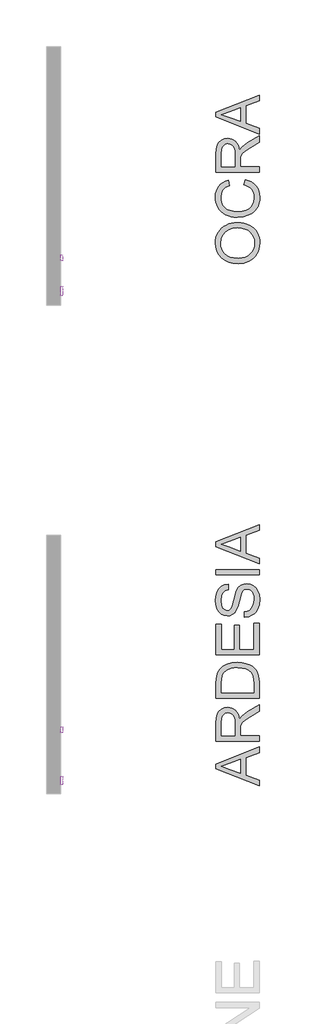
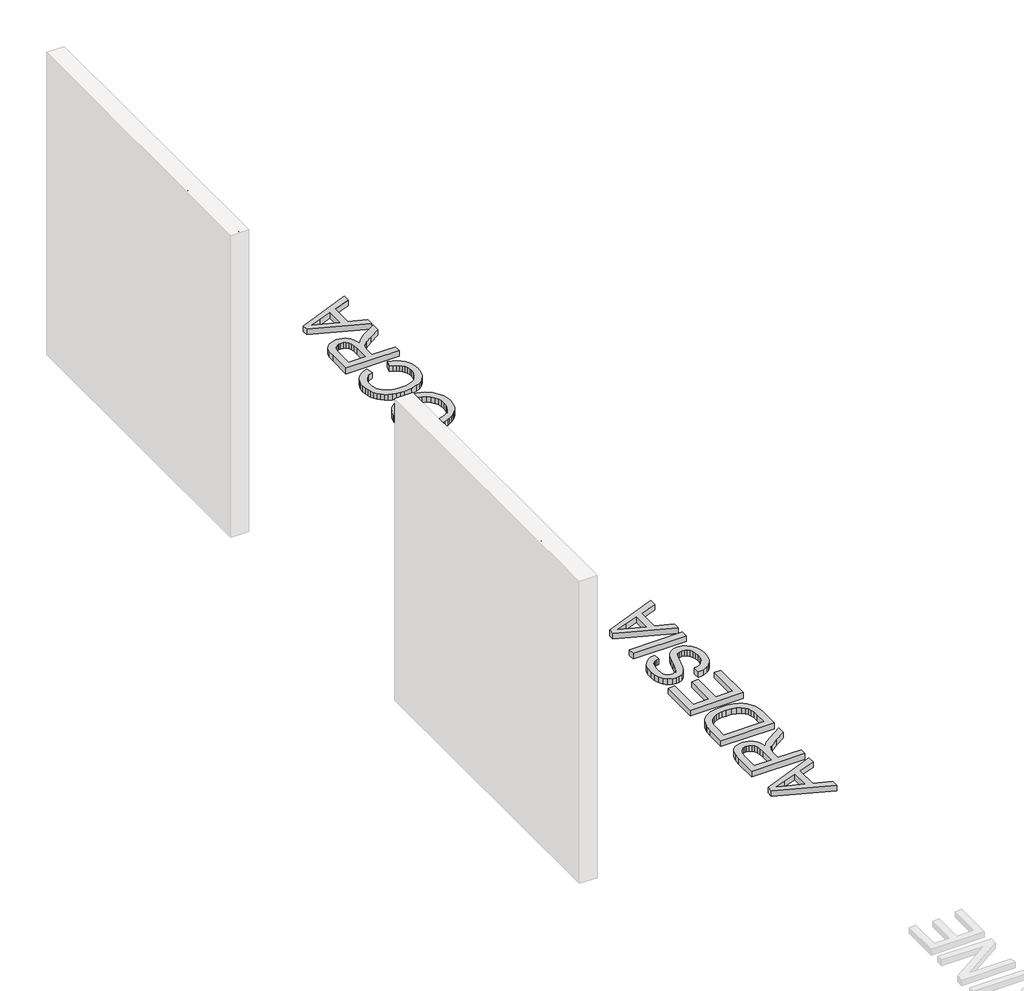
# One storey, part 4 of 6: 6 proxies.
"""IFC4 building model written with IfcOpenShell, lengths in millimetres."""

from ifc_helpers import new_model, si_unit, frame, origin, origin_with_axes, place, context, project, spatial, polyline, outline, extrude, element, save

model = new_model("IFC4")

# Units and contexts
model_context = context("Model", 3, world=origin())
ifc_project = project(units=[si_unit("LENGTHUNIT", "METRE", prefix="MILLI")], contexts=[model_context])

# Site, building, storey
site = spatial("IfcSite", under=ifc_project)
building = spatial("IfcBuilding", under=site)
storey = spatial("IfcBuildingStorey", under=building, Name="PORTOBELLO - SHOWROOM", Elevation=0.0)

# Proxies
placement = place(None, origin())
element("IfcBuildingElementProxy", 1, Name="10mm Arial", ObjectType="10mm Arial", at=placement, inside=storey, context=model_context, shape_type="SweptSolid", body=[
    extrude(outline(polyline([(3716.2378531, 2478.2261649), (3756.3369906, 2578.6824751), (3767.0300939, 2578.6824751), (3807.1292314, 2478.2261649), (3793.8609541, 2478.2261649), (3782.3585104, 2509.6187619), (3740.9840487, 2509.6187619), (3729.5061304, 2478.2261649), (3716.2378531, 2478.2261649)]), holes=[polyline([(3745.5948363, 2522.1758006), (3777.7722482, 2522.1758006), (3768.7223511, 2546.8729452), (3761.6835422, 2566.1254363), (3755.4295483, 2549.0311863), (3745.5948363, 2522.1758006)])]), frame((-20793.2092306, 0.0, 0.0), z_axis=(1.0, 0.0, 0.0), x_axis=(0.0, 1.0, 0.0)), (0.0, 0.0, 1.0), 20.0),
    extrude(outline(polyline([(3818.9750316, 2478.2261649), (3818.9750316, 2551.9987677), (3829.9624406, 2551.9987677), (3829.9624406, 2541.0849352), (3837.7615388, 2551.1403764), (3845.6096881, 2553.5683975), (3858.2157778, 2549.6933739), (3854.021923, 2538.4361848), (3845.1927552, 2541.0113588), (3838.0926326, 2538.5342867), (3833.5676841, 2531.6671561), (3831.5320704, 2517.0009272), (3831.5320704, 2478.2261649), (3818.9750316, 2478.2261649)])), frame((-20793.2092306, 0.0, 0.0), z_axis=(1.0, 0.0, 0.0), x_axis=(0.0, 1.0, 0.0)), (0.0, 0.0, 1.0), 20.0),
    extrude(outline(polyline([(3911.5831925, 2478.2261649), (3911.5831925, 2490.0719652), (3903.2751908, 2480.0103926), (3891.7911412, 2476.6565351), (3876.2419955, 2481.5125774), (3865.2545866, 2495.0628976), (3861.3550375, 2515.0388899), (3864.9480183, 2535.027145), (3875.714698, 2548.7859316), (3891.7420903, 2553.5683975), (3903.3181104, 2550.147095), (3911.5831925, 2541.2566134), (3911.5831925, 2578.6824751), (3924.1402313, 2578.6824751), (3924.1402313, 2478.2261649), (3911.5831925, 2478.2261649)]), holes=[polyline([(3873.9120762, 2515.0879409), (3875.3284219, 2503.7295843), (3879.577459, 2495.6515088), (3885.7517451, 2490.8230576), (3892.9438381, 2489.2135739), (3900.1328654, 2490.7494812), (3906.1508018, 2495.3572032), (3910.2250948, 2503.122579), (3911.5831925, 2514.1314477), (3910.2005694, 2526.1673203), (3906.0526999, 2534.5121102), (3899.8814794, 2539.3865466), (3892.4288033, 2541.0113588), (3885.1631339, 2539.450926), (3879.209577, 2534.7696276), (3875.2364514, 2526.7283403), (3873.9120762, 2515.0879409)])]), frame((-20793.2092306, 0.0, 0.0), z_axis=(1.0, 0.0, 0.0), x_axis=(0.0, 1.0, 0.0)), (0.0, 0.0, 1.0), 20.0),
    extrude(outline(polyline([(3994.6264216, 2500.2009828), (4006.9382057, 2498.6313529), (4002.502162, 2489.3545953), (3995.4234992, 2482.4200197), (3985.8616331, 2478.0974062), (3973.9759789, 2476.6565351), (3959.242305, 2479.1428042), (3947.9054082, 2486.6016117), (3940.676527, 2498.5485795), (3938.2668999, 2514.4993297), (3940.7010525, 2530.9865744), (3948.0035101, 2543.3167526), (3959.1871227, 2551.0054863), (3973.2647404, 2553.5683975), (3986.9039654, 2551.0116177), (3997.8024695, 2543.3412781), (4004.9485772, 2531.0356253), (4007.3306132, 2514.5729061), (4007.2570368, 2511.1883917), (3950.8239387, 2511.1883917), (3952.9975082, 2501.7890067), (3958.0466885, 2494.8789566), (3965.3338177, 2490.6299195), (3974.2212336, 2489.2135739), (3986.5330177, 2491.8377988), (3994.6264216, 2500.2009828)]), holes=[polyline([(3950.8239387, 2523.7454305), (3994.7735744, 2523.7454305), (3989.7458538, 2535.1252469), (3982.4250021, 2539.5398308), (3973.2156895, 2541.0113588), (3957.7523829, 2536.314732), (3952.8871436, 2530.8240932), (3950.8239387, 2523.7454305)])]), frame((-20793.2092306, 0.0, 0.0), z_axis=(1.0, 0.0, 0.0), x_axis=(0.0, 1.0, 0.0)), (0.0, 0.0, 1.0), 20.0),
    extrude(outline(polyline([(4015.1787624, 2500.2009828), (4027.7358012, 2501.7706126), (4033.5483367, 2492.4509354), (4046.8656649, 2489.2135739), (4059.6679583, 2492.1811553), (4063.8372876, 2499.1463877), (4059.6434329, 2504.787245), (4046.7185121, 2508.3679631), (4027.8093776, 2514.5115924), (4019.5565581, 2521.6852913), (4016.7483922, 2531.8143089), (4019.0047351, 2541.1707743), (4025.1606272, 2548.3199477), (4033.1436665, 2552.0355559), (4043.9471344, 2553.5683975), (4059.2264999, 2551.1035882), (4068.9385846, 2544.4326613), (4073.2550667, 2533.1632095), (4060.6980279, 2531.5935797), (4055.9768757, 2538.5220239), (4044.9281531, 2541.0113588), (4032.9106746, 2538.6323885), (4029.305431, 2533.0896331), (4030.8014845, 2529.4353387), (4035.4858485, 2526.663961), (4046.3015792, 2523.9906851), (4064.7324671, 2518.0800477), (4073.2918549, 2511.3845954), (4076.3943264, 2500.4707629), (4072.7522946, 2488.4532844), (4062.2431323, 2479.7344811), (4046.6939866, 2476.6565351), (4034.0327146, 2478.1403258), (4024.7927452, 2482.5916979), (4018.6245904, 2489.9616006), (4015.1787624, 2500.2009828)])), frame((-20793.2092306, 0.0, 0.0), z_axis=(1.0, 0.0, 0.0), x_axis=(0.0, 1.0, 0.0)), (0.0, 0.0, 1.0), 20.0),
    extrude(outline(polyline([(-20773.2092306, 4103.0780338), (-20773.2092306, 4090.520995), (-20793.2092306, 4090.520995), (-20793.2092306, 4103.0780338), (-20773.2092306, 4103.0780338)])), frame((0.0, 0.0, 2566.1254363), z_axis=(0.0, 0.0, 1.0), x_axis=(1.0, 0.0, 0.0)), (0.0, 0.0, 1.0), 12.5570388),
    extrude(outline(polyline([(-20773.2092306, 4103.0780338), (-20773.2092306, 4090.520995), (-20793.2092306, 4090.520995), (-20793.2092306, 4103.0780338), (-20773.2092306, 4103.0780338)])), frame((0.0, 0.0, 2478.2261649), z_axis=(0.0, 0.0, 1.0), x_axis=(1.0, 0.0, 0.0)), (0.0, 0.0, 1.0), 73.7726028),
    extrude(outline(polyline([(4169.0024873, 2487.643944), (4156.8255933, 2479.1336072), (4143.373375, 2476.6565351), (4132.8795411, 2478.1464572), (4125.1386907, 2482.6162234), (4120.3654219, 2489.4036462), (4118.7743322, 2497.846538), (4121.1778279, 2507.7793519), (4127.4931355, 2514.989839), (4136.2855152, 2519.1101173), (4147.1502968, 2520.9985782), (4168.9289109, 2525.3150603), (4169.0024873, 2528.1109635), (4165.5443966, 2537.3815898), (4151.6629826, 2541.0113588), (4138.958791, 2538.5956003), (4132.9010008, 2530.0239499), (4120.3439621, 2531.5935797), (4125.7763529, 2543.8563129), (4136.7147109, 2551.0422745), (4153.2816634, 2553.5683975), (4168.4997152, 2551.3365801), (4177.0958912, 2545.7325111), (4180.9463894, 2537.2099115), (4181.5595261, 2526.2225026), (4181.5595261, 2510.5997805), (4182.1971882, 2488.7843782), (4184.6987858, 2478.2261649), (4172.141747, 2478.2261649), (4169.0024873, 2487.643944)]), holes=[polyline([(4169.0024873, 2512.7580215), (4148.7444521, 2508.9075233), (4137.9409842, 2506.8719096), (4133.0481536, 2503.5609717), (4131.331371, 2498.7294548), (4135.0715046, 2491.9359006), (4146.0466508, 2489.2135739), (4158.7508424, 2492.2179435), (4166.9423481, 2499.4897443), (4168.9289109, 2509.2018289), (4169.0024873, 2512.7580215)])]), frame((-20793.2092306, 0.0, 0.0), z_axis=(1.0, 0.0, 0.0), x_axis=(0.0, 1.0, 0.0)), (0.0, 0.0, 1.0), 20.0),
])
element("IfcBuildingElementProxy", 2, Name="10mm Arial", ObjectType="10mm Arial", at=placement, inside=storey, context=model_context, shape_type="SweptSolid", body=[
    extrude(outline(polyline([(8823.227611, 2527.1299448), (8826.5753372, 2549.343886), (8836.6185156, 2566.1499618), (8851.9530635, 2576.7265691), (8871.1748977, 2580.2521049), (8884.3512045, 2578.596636), (8896.1663479, 2573.630229), (8905.9765345, 2565.702372), (8913.1379706, 2555.1625529), (8917.5157664, 2542.519675), (8918.9750316, 2528.2826417), (8917.4391243, 2513.8555362), (8912.8314023, 2501.0348486), (8905.4063174, 2490.4766354), (8895.4183212, 2482.8369526), (8883.7043453, 2478.2016395), (8871.1013213, 2476.6565351), (8857.7226794, 2478.3641207), (8845.840091, 2483.4868775), (8836.0544299, 2491.5618873), (8828.9665701, 2502.1262319), (8823.227611, 2527.1299448)]), holes=[polyline([(8835.7846498, 2527.0073175), (8838.2954444, 2511.2926249), (8845.8278283, 2499.318066), (8857.1493967, 2491.7396969), (8871.0277449, 2489.2135739), (8885.1084283, 2491.7642224), (8896.4483908, 2499.4161679), (8903.9255923, 2511.7586088), (8906.4179929, 2528.3807436), (8902.1505617, 2549.1047627), (8889.6793621, 2562.8267611), (8871.2484741, 2567.6950662), (8857.7410735, 2565.3498184), (8846.2570239, 2558.3140753), (8838.4027433, 2545.7968904), (8835.7846498, 2527.0073175)])]), frame((-20793.2092306, 0.0, 0.0), z_axis=(1.0, 0.0, 0.0), x_axis=(0.0, 1.0, 0.0)), (0.0, 0.0, 1.0), 20.0),
    extrude(outline(polyline([(8981.7602255, 2504.9098723), (8994.3172642, 2503.3402425), (8990.8162539, 2492.1719582), (8984.2372976, 2483.7321321), (8975.1996632, 2478.4254343), (8964.3226189, 2476.6565351), (8950.9654368, 2479.1244101), (8940.5206538, 2486.5280353), (8933.7792163, 2498.5424481), (8931.5320704, 2514.8426862), (8935.3703059, 2535.7015953), (8947.0689533, 2549.1047627), (8964.1509406, 2553.5683975), (8974.7612705, 2552.0355559), (8983.2440162, 2547.437031), (8989.3293975, 2540.0180774), (8992.7476344, 2530.0239499), (8980.1905956, 2528.45432), (8974.3657974, 2537.8598364), (8964.2490425, 2541.0113588), (8956.1341788, 2539.460123), (8949.6931782, 2534.8064158), (8945.4901264, 2526.798851), (8944.0891092, 2515.1860427), (8945.4594696, 2503.4168846), (8949.5705509, 2495.3817286), (8955.8950555, 2490.7556126), (8963.905686, 2489.2135739), (8975.7392235, 2493.0640721), (8981.7602255, 2504.9098723)])), frame((-20793.2092306, 0.0, 0.0), z_axis=(1.0, 0.0, 0.0), x_axis=(0.0, 1.0, 0.0)), (0.0, 0.0, 1.0), 20.0),
    extrude(outline(polyline([(9005.3046732, 2478.2261649), (9005.3046732, 2551.9987677), (9016.2920821, 2551.9987677), (9016.2920821, 2541.0849352), (9024.0911804, 2551.1403764), (9031.9393296, 2553.5683975), (9044.5454193, 2549.6933739), (9040.3515646, 2538.4361848), (9031.5223967, 2541.0113588), (9024.4222742, 2538.5342867), (9019.8973256, 2531.6671561), (9017.8617119, 2517.0009272), (9017.8617119, 2478.2261649), (9005.3046732, 2478.2261649)])), frame((-20793.2092306, 0.0, 0.0), z_axis=(1.0, 0.0, 0.0), x_axis=(0.0, 1.0, 0.0)), (0.0, 0.0, 1.0), 20.0),
    extrude(outline(polyline([(9099.4824639, 2487.643944), (9087.3055699, 2479.1336072), (9073.8533516, 2476.6565351), (9063.3595177, 2478.1464572), (9055.6186674, 2482.6162234), (9050.8453985, 2489.4036462), (9049.2543089, 2497.846538), (9051.6578046, 2507.7793519), (9057.9731121, 2514.989839), (9066.7654918, 2519.1101173), (9077.6302734, 2520.9985782), (9099.4088875, 2525.3150603), (9099.4824639, 2528.1109635), (9096.0243732, 2537.3815898), (9082.1429592, 2541.0113588), (9069.4387677, 2538.5956003), (9063.3809775, 2530.0239499), (9050.8239387, 2531.5935797), (9056.2563295, 2543.8563129), (9067.1946875, 2551.0422745), (9083.76164, 2553.5683975), (9098.9796919, 2551.3365801), (9107.5758678, 2545.7325111), (9111.426366, 2537.2099115), (9112.0395027, 2526.2225026), (9112.0395027, 2510.5997805), (9112.6771648, 2488.7843782), (9115.1787624, 2478.2261649), (9102.6217236, 2478.2261649), (9099.4824639, 2487.643944)]), holes=[polyline([(9099.4824639, 2512.7580215), (9079.2244287, 2508.9075233), (9068.4209608, 2506.8719096), (9063.5281303, 2503.5609717), (9061.8113476, 2498.7294548), (9065.5514812, 2491.9359006), (9076.5266274, 2489.2135739), (9089.230819, 2492.2179435), (9097.4223248, 2499.4897443), (9099.4088875, 2509.2018289), (9099.4824639, 2512.7580215)])]), frame((-20793.2092306, 0.0, 0.0), z_axis=(1.0, 0.0, 0.0), x_axis=(0.0, 1.0, 0.0)), (0.0, 0.0, 1.0), 20.0),
])
element("IfcBuildingElementProxy", 3, Name="10mm Arial Narrow", ObjectType="10mm Arial Narrow", at=placement, inside=storey, context=model_context, shape_type="SweptSolid", body=[
    extrude(outline(polyline([(4260.0715597, 2478.2261649), (4260.0715597, 2578.9447687), (4291.3684444, 2578.9447687), (4307.6641459, 2577.066448), (4319.137132, 2567.5860048), (4323.4268104, 2550.566896), (4321.640502, 2538.4910704), (4316.2815768, 2528.8646767), (4306.537788, 2522.5634182), (4291.5968888, 2520.4629988), (4269.8185213, 2520.4629988), (4269.8185213, 2478.2261649), (4260.0715597, 2478.2261649)]), holes=[polyline([(4269.8185213, 2531.834454), (4292.7898763, 2531.834454), (4308.6540717, 2536.3652682), (4313.6798488, 2550.033859), (4311.2050343, 2560.1996354), (4305.2274055, 2565.9995852), (4292.5614319, 2567.5733134), (4269.8185213, 2567.5733134), (4269.8185213, 2531.834454)])]), frame((-20793.2092306, 0.0, 0.0), z_axis=(1.0, 0.0, 0.0), x_axis=(0.0, 1.0, 0.0)), (0.0, 0.0, 1.0), 20.0),
    extrude(outline(polyline([(4331.5492785, 2514.7772711), (4333.5037473, 2531.3680467), (4339.367154, 2543.3201315), (4348.2257207, 2550.5446861), (4359.1656698, 2552.9528709), (4369.9787054, 2550.5446861), (4378.8626548, 2543.3201315), (4384.8022096, 2531.558417), (4386.7820612, 2515.5387525), (4384.8371108, 2498.3768659), (4379.0022597, 2486.2344108), (4370.1532116, 2479.0098562), (4359.1656698, 2476.6016713), (4348.3050417, 2479.0162019), (4339.4306107, 2486.2597935), (4333.5196115, 2498.218224), (4331.5492785, 2514.7772711)]), holes=[polyline([(4341.2962401, 2514.8026538), (4342.600277, 2502.2509024), (4346.5123876, 2493.3796444), (4352.3535843, 2488.1063858), (4359.4448797, 2486.348633), (4366.1649528, 2488.12225), (4371.8570261, 2493.4431012), (4375.7405812, 2502.3302234), (4377.0350995, 2514.8026538), (4375.7310627, 2527.3163312), (4371.8189521, 2536.1748979), (4365.9777553, 2541.4481564), (4358.88646, 2543.2059093), (4352.1187942, 2541.4386379), (4346.4362394, 2536.1368238), (4342.58124, 2527.2687386), (4341.2962401, 2514.8026538)])]), frame((-20793.2092306, 0.0, 0.0), z_axis=(1.0, 0.0, 0.0), x_axis=(0.0, 1.0, 0.0)), (0.0, 0.0, 1.0), 20.0),
    extrude(outline(polyline([(4458.25978, 2486.348633), (4459.8842736, 2476.6016713), (4452.5232869, 2476.6016713), (4444.2485226, 2478.7211278), (4439.9334614, 2484.5210777), (4438.7658567, 2499.1669029), (4438.7658567, 2541.5814157), (4430.6433886, 2541.5814157), (4430.6433886, 2544.8304029), (4429.018895, 2539.9569221), (4421.4548466, 2541.5814157), (4415.375687, 2539.2588975), (4411.5048233, 2532.7736144), (4409.5249717, 2517.3663078), (4409.5249717, 2478.2261649), (4399.77801, 2478.2261649), (4399.77801, 2551.3283773), (4409.5249717, 2551.3283773), (4409.5249717, 2541.6321811), (4415.769119, 2550.7191922), (4422.1655626, 2552.9528709), (4430.6433886, 2551.3283773), (4438.7658567, 2551.3283773), (4438.7658567, 2567.5733134), (4448.5128183, 2575.6957815), (4448.5128183, 2551.3283773), (4458.25978, 2551.3283773), (4458.25978, 2541.5814157), (4448.5128183, 2541.5814157), (4448.5128183, 2496.9332242), (4449.3758305, 2488.9376697), (4453.9954842, 2486.348633), (4458.25978, 2486.348633)])), frame((-20793.2092306, 0.0, 0.0), z_axis=(1.0, 0.0, 0.0), x_axis=(0.0, 1.0, 0.0)), (0.0, 0.0, 1.0), 20.0),
    extrude(outline(polyline([(4464.7577544, 2514.7772711), (4466.7122233, 2531.3680467), (4472.5756299, 2543.3201315), (4481.4341966, 2550.5446861), (4492.3741458, 2552.9528709), (4503.1871813, 2550.5446861), (4512.0711308, 2543.3201315), (4518.0106855, 2531.558417), (4519.9905371, 2515.5387525), (4518.0455867, 2498.3768659), (4512.2107357, 2486.2344108), (4503.3616875, 2479.0098562), (4492.3741458, 2476.6016713), (4481.5135176, 2479.0162019), (4472.6390867, 2486.2597935), (4466.7280875, 2498.218224), (4464.7577544, 2514.7772711)]), holes=[polyline([(4474.5047161, 2514.8026538), (4475.8087529, 2502.2509024), (4479.7208635, 2493.3796444), (4485.5620602, 2488.1063858), (4492.6533556, 2486.348633), (4499.3734288, 2488.12225), (4505.0655021, 2493.4431012), (4508.9490571, 2502.3302234), (4510.2435755, 2514.8026538), (4508.9395386, 2527.3163312), (4505.027428, 2536.1748979), (4499.1862313, 2541.4481564), (4492.0949359, 2543.2059093), (4485.3272702, 2541.4386379), (4479.6447154, 2536.1368238), (4475.7897159, 2527.2687386), (4474.5047161, 2514.8026538)])]), frame((-20793.2092306, 0.0, 0.0), z_axis=(1.0, 0.0, 0.0), x_axis=(0.0, 1.0, 0.0)), (0.0, 0.0, 1.0), 20.0),
    extrude(outline(polyline([(4542.7334476, 2478.2261649), (4532.986486, 2478.2261649), (4532.986486, 2578.9447687), (4542.7334476, 2578.9447687), (4542.7334476, 2543.5358846), (4550.1325084, 2550.6176614), (4559.3337417, 2552.9528709), (4572.2154684, 2548.752032), (4581.4928498, 2536.0226016), (4584.9702815, 2515.3356908), (4583.0380225, 2498.8813473), (4577.2412455, 2486.6786082), (4568.8681231, 2479.1209056), (4559.2068281, 2476.6016713), (4549.8659899, 2479.2160907), (4542.7334476, 2486.9832008), (4542.7334476, 2478.2261649)]), holes=[polyline([(4542.7334476, 2515.3356908), (4544.8148301, 2498.0881376), (4550.7036194, 2489.3564844), (4559.1560627, 2486.348633), (4565.0987903, 2488.1381142), (4570.3371476, 2493.5065579), (4575.2233198, 2514.9295674), (4570.5148266, 2536.3652682), (4565.2701236, 2541.495749), (4558.953001, 2543.2059093), (4552.9753722, 2541.4164281), (4547.6830766, 2536.0479843), (4542.7334476, 2515.3356908)])]), frame((-20793.2092306, 0.0, 0.0), z_axis=(1.0, 0.0, 0.0), x_axis=(0.0, 1.0, 0.0)), (0.0, 0.0, 1.0), 20.0),
    extrude(outline(polyline([(4636.9540769, 2500.9690755), (4646.7010386, 2499.3445819), (4643.0015082, 2489.4580153), (4637.1825214, 2482.3381644), (4629.4788681, 2478.0357946), (4620.1253385, 2476.6016713), (4608.5317845, 2479.0162019), (4599.3876622, 2486.2597935), (4593.4481075, 2498.0659277), (4591.4682559, 2514.168086), (4593.457626, 2530.8350097), (4599.4257363, 2543.0155389), (4608.4397721, 2550.4685379), (4619.5669188, 2552.9528709), (4630.249868, 2550.5542046), (4638.9973853, 2543.3582056), (4644.8322364, 2531.618701), (4646.7771867, 2515.5895179), (4646.7010386, 2512.3405307), (4601.2152175, 2512.3405307), (4607.2182291, 2492.8973728), (4613.1482653, 2487.9858179), (4620.252252, 2486.348633), (4630.4307198, 2490.0037436), (4636.9540769, 2500.9690755)]), holes=[polyline([(4601.8751681, 2522.0874924), (4636.9540769, 2522.0874924), (4632.6897812, 2536.3525769), (4626.8644487, 2541.4925762), (4619.6430669, 2543.2059093), (4607.4339821, 2537.4947989), (4601.8751681, 2522.0874924)])]), frame((-20793.2092306, 0.0, 0.0), z_axis=(1.0, 0.0, 0.0), x_axis=(0.0, 1.0, 0.0)), (0.0, 0.0, 1.0), 20.0),
    extrude(outline(polyline([(-20773.2092306, 4669.4439491), (-20773.2092306, 4659.6969875), (-20793.2092306, 4659.6969875), (-20793.2092306, 4669.4439491), (-20773.2092306, 4669.4439491)])), frame((0.0, 0.0, 2478.2261649), z_axis=(0.0, 0.0, 1.0), x_axis=(1.0, 0.0, 0.0)), (0.0, 0.0, 1.0), 100.7186038),
    extrude(outline(polyline([(-20773.2092306, 4695.4358469), (-20773.2092306, 4685.6888852), (-20793.2092306, 4685.6888852), (-20793.2092306, 4695.4358469), (-20773.2092306, 4695.4358469)])), frame((0.0, 0.0, 2478.2261649), z_axis=(0.0, 0.0, 1.0), x_axis=(1.0, 0.0, 0.0)), (0.0, 0.0, 1.0), 100.7186038),
    extrude(outline(polyline([(4706.8073021, 2514.7772711), (4708.761771, 2531.3680467), (4714.6251776, 2543.3201315), (4723.4837443, 2550.5446861), (4734.4236935, 2552.9528709), (4745.2367291, 2550.5446861), (4754.1206785, 2543.3201315), (4760.0602332, 2531.558417), (4762.0400848, 2515.5387525), (4760.0951345, 2498.3768659), (4754.2602834, 2486.2344108), (4745.4112352, 2479.0098562), (4734.4236935, 2476.6016713), (4723.5630653, 2479.0162019), (4714.6886344, 2486.2597935), (4708.7776352, 2498.218224), (4706.8073021, 2514.7772711)]), holes=[polyline([(4716.5542638, 2514.8026538), (4717.8583006, 2502.2509024), (4721.7704112, 2493.3796444), (4727.611608, 2488.1063858), (4734.7029033, 2486.348633), (4741.4229765, 2488.12225), (4747.1150498, 2493.4431012), (4750.9986048, 2502.3302234), (4752.2931232, 2514.8026538), (4750.9890863, 2527.3163312), (4747.0769757, 2536.1748979), (4741.235779, 2541.4481564), (4734.1444836, 2543.2059093), (4727.3768179, 2541.4386379), (4721.6942631, 2536.1368238), (4717.8392636, 2527.2687386), (4716.5542638, 2514.8026538)])]), frame((-20793.2092306, 0.0, 0.0), z_axis=(1.0, 0.0, 0.0), x_axis=(0.0, 1.0, 0.0)), (0.0, 0.0, 1.0), 20.0),
])
element("IfcBuildingElementProxy", 4, Name="10mm Arial Narrow", ObjectType="10mm Arial Narrow", at=placement, inside=storey, context=model_context, shape_type="SweptSolid", body=[
    extrude(outline(polyline([(9185.0715597, 2478.2261649), (9185.0715597, 2578.9447687), (9216.3684444, 2578.9447687), (9232.6641459, 2577.066448), (9244.137132, 2567.5860048), (9248.4268104, 2550.566896), (9246.640502, 2538.4910704), (9241.2815768, 2528.8646767), (9231.537788, 2522.5634182), (9216.5968888, 2520.4629988), (9194.8185213, 2520.4629988), (9194.8185213, 2478.2261649), (9185.0715597, 2478.2261649)]), holes=[polyline([(9194.8185213, 2531.834454), (9217.7898763, 2531.834454), (9233.6540717, 2536.3652682), (9238.6798488, 2550.033859), (9236.2050343, 2560.1996354), (9230.2274055, 2565.9995852), (9217.5614319, 2567.5733134), (9194.8185213, 2567.5733134), (9194.8185213, 2531.834454)])]), frame((-20793.2092306, 0.0, 0.0), z_axis=(1.0, 0.0, 0.0), x_axis=(0.0, 1.0, 0.0)), (0.0, 0.0, 1.0), 20.0),
    extrude(outline(polyline([(9256.5492785, 2514.7772711), (9258.5037473, 2531.3680467), (9264.367154, 2543.3201315), (9273.2257207, 2550.5446861), (9284.1656698, 2552.9528709), (9294.9787054, 2550.5446861), (9303.8626548, 2543.3201315), (9309.8022096, 2531.558417), (9311.7820612, 2515.5387525), (9309.8371108, 2498.3768659), (9304.0022597, 2486.2344108), (9295.1532116, 2479.0098562), (9284.1656698, 2476.6016713), (9273.3050417, 2479.0162019), (9264.4306107, 2486.2597935), (9258.5196115, 2498.218224), (9256.5492785, 2514.7772711)]), holes=[polyline([(9266.2962401, 2514.8026538), (9267.600277, 2502.2509024), (9271.5123876, 2493.3796444), (9277.3535843, 2488.1063858), (9284.4448797, 2486.348633), (9291.1649528, 2488.12225), (9296.8570261, 2493.4431012), (9300.7405812, 2502.3302234), (9302.0350995, 2514.8026538), (9300.7310627, 2527.3163312), (9296.8189521, 2536.1748979), (9290.9777553, 2541.4481564), (9283.88646, 2543.2059093), (9277.1187942, 2541.4386379), (9271.4362394, 2536.1368238), (9267.58124, 2527.2687386), (9266.2962401, 2514.8026538)])]), frame((-20793.2092306, 0.0, 0.0), z_axis=(1.0, 0.0, 0.0), x_axis=(0.0, 1.0, 0.0)), (0.0, 0.0, 1.0), 20.0),
    extrude(outline(polyline([(9383.25978, 2486.348633), (9384.8842736, 2476.6016713), (9377.5232869, 2476.6016713), (9369.2485226, 2478.7211278), (9364.9334614, 2484.5210777), (9363.7658567, 2499.1669029), (9363.7658567, 2541.5814157), (9355.6433886, 2541.5814157), (9355.6433886, 2544.8304029), (9354.018895, 2539.9569221), (9346.4548466, 2541.5814157), (9340.375687, 2539.2588975), (9336.5048233, 2532.7736144), (9334.5249717, 2517.3663078), (9334.5249717, 2478.2261649), (9324.77801, 2478.2261649), (9324.77801, 2551.3283773), (9334.5249717, 2551.3283773), (9334.5249717, 2541.6321811), (9340.769119, 2550.7191922), (9347.1655626, 2552.9528709), (9355.6433886, 2551.3283773), (9363.7658567, 2551.3283773), (9363.7658567, 2567.5733134), (9373.5128183, 2575.6957815), (9373.5128183, 2551.3283773), (9383.25978, 2551.3283773), (9383.25978, 2541.5814157), (9373.5128183, 2541.5814157), (9373.5128183, 2496.9332242), (9374.3758305, 2488.9376697), (9378.9954842, 2486.348633), (9383.25978, 2486.348633)])), frame((-20793.2092306, 0.0, 0.0), z_axis=(1.0, 0.0, 0.0), x_axis=(0.0, 1.0, 0.0)), (0.0, 0.0, 1.0), 20.0),
    extrude(outline(polyline([(9389.7577544, 2514.7772711), (9391.7122233, 2531.3680467), (9397.5756299, 2543.3201315), (9406.4341966, 2550.5446861), (9417.3741458, 2552.9528709), (9428.1871813, 2550.5446861), (9437.0711308, 2543.3201315), (9443.0106855, 2531.558417), (9444.9905371, 2515.5387525), (9443.0455867, 2498.3768659), (9437.2107357, 2486.2344108), (9428.3616875, 2479.0098562), (9417.3741458, 2476.6016713), (9406.5135176, 2479.0162019), (9397.6390867, 2486.2597935), (9391.7280875, 2498.218224), (9389.7577544, 2514.7772711)]), holes=[polyline([(9399.5047161, 2514.8026538), (9400.8087529, 2502.2509024), (9404.7208635, 2493.3796444), (9410.5620602, 2488.1063858), (9417.6533556, 2486.348633), (9424.3734288, 2488.12225), (9430.0655021, 2493.4431012), (9433.9490571, 2502.3302234), (9435.2435755, 2514.8026538), (9433.9395386, 2527.3163312), (9430.027428, 2536.1748979), (9424.1862313, 2541.4481564), (9417.0949359, 2543.2059093), (9410.3272702, 2541.4386379), (9404.6447154, 2536.1368238), (9400.7897159, 2527.2687386), (9399.5047161, 2514.8026538)])]), frame((-20793.2092306, 0.0, 0.0), z_axis=(1.0, 0.0, 0.0), x_axis=(0.0, 1.0, 0.0)), (0.0, 0.0, 1.0), 20.0),
    extrude(outline(polyline([(9467.7334476, 2478.2261649), (9457.986486, 2478.2261649), (9457.986486, 2578.9447687), (9467.7334476, 2578.9447687), (9467.7334476, 2543.5358846), (9475.1325084, 2550.6176614), (9484.3337417, 2552.9528709), (9497.2154684, 2548.752032), (9506.4928498, 2536.0226016), (9509.9702815, 2515.3356908), (9508.0380225, 2498.8813473), (9502.2412455, 2486.6786082), (9493.8681231, 2479.1209056), (9484.2068281, 2476.6016713), (9474.8659899, 2479.2160907), (9467.7334476, 2486.9832008), (9467.7334476, 2478.2261649)]), holes=[polyline([(9467.7334476, 2515.3356908), (9469.8148301, 2498.0881376), (9475.7036194, 2489.3564844), (9484.1560627, 2486.348633), (9490.0987903, 2488.1381142), (9495.3371476, 2493.5065579), (9500.2233198, 2514.9295674), (9495.5148266, 2536.3652682), (9490.2701236, 2541.495749), (9483.953001, 2543.2059093), (9477.9753722, 2541.4164281), (9472.6830766, 2536.0479843), (9467.7334476, 2515.3356908)])]), frame((-20793.2092306, 0.0, 0.0), z_axis=(1.0, 0.0, 0.0), x_axis=(0.0, 1.0, 0.0)), (0.0, 0.0, 1.0), 20.0),
    extrude(outline(polyline([(9561.9540769, 2500.9690755), (9571.7010386, 2499.3445819), (9568.0015082, 2489.4580153), (9562.1825214, 2482.3381644), (9554.4788681, 2478.0357946), (9545.1253385, 2476.6016713), (9533.5317845, 2479.0162019), (9524.3876622, 2486.2597935), (9518.4481075, 2498.0659277), (9516.4682559, 2514.168086), (9518.457626, 2530.8350097), (9524.4257363, 2543.0155389), (9533.4397721, 2550.4685379), (9544.5669188, 2552.9528709), (9555.249868, 2550.5542046), (9563.9973853, 2543.3582056), (9569.8322364, 2531.618701), (9571.7771867, 2515.5895179), (9571.7010386, 2512.3405307), (9526.2152175, 2512.3405307), (9532.2182291, 2492.8973728), (9538.1482653, 2487.9858179), (9545.252252, 2486.348633), (9555.4307198, 2490.0037436), (9561.9540769, 2500.9690755)]), holes=[polyline([(9526.8751681, 2522.0874924), (9561.9540769, 2522.0874924), (9557.6897812, 2536.3525769), (9551.8644487, 2541.4925762), (9544.6430669, 2543.2059093), (9532.4339821, 2537.4947989), (9526.8751681, 2522.0874924)])]), frame((-20793.2092306, 0.0, 0.0), z_axis=(1.0, 0.0, 0.0), x_axis=(0.0, 1.0, 0.0)), (0.0, 0.0, 1.0), 20.0),
    extrude(outline(polyline([(-20773.2092306, 9594.4439491), (-20773.2092306, 9584.6969875), (-20793.2092306, 9584.6969875), (-20793.2092306, 9594.4439491), (-20773.2092306, 9594.4439491)])), frame((0.0, 0.0, 2478.2261649), z_axis=(0.0, 0.0, 1.0), x_axis=(1.0, 0.0, 0.0)), (0.0, 0.0, 1.0), 100.7186038),
    extrude(outline(polyline([(-20773.2092306, 9620.4358469), (-20773.2092306, 9610.6888852), (-20793.2092306, 9610.6888852), (-20793.2092306, 9620.4358469), (-20773.2092306, 9620.4358469)])), frame((0.0, 0.0, 2478.2261649), z_axis=(0.0, 0.0, 1.0), x_axis=(1.0, 0.0, 0.0)), (0.0, 0.0, 1.0), 100.7186038),
    extrude(outline(polyline([(9631.8073021, 2514.7772711), (9633.761771, 2531.3680467), (9639.6251776, 2543.3201315), (9648.4837443, 2550.5446861), (9659.4236935, 2552.9528709), (9670.2367291, 2550.5446861), (9679.1206785, 2543.3201315), (9685.0602332, 2531.558417), (9687.0400848, 2515.5387525), (9685.0951345, 2498.3768659), (9679.2602834, 2486.2344108), (9670.4112352, 2479.0098562), (9659.4236935, 2476.6016713), (9648.5630653, 2479.0162019), (9639.6886344, 2486.2597935), (9633.7776352, 2498.218224), (9631.8073021, 2514.7772711)]), holes=[polyline([(9641.5542638, 2514.8026538), (9642.8583006, 2502.2509024), (9646.7704112, 2493.3796444), (9652.611608, 2488.1063858), (9659.7029033, 2486.348633), (9666.4229765, 2488.12225), (9672.1150498, 2493.4431012), (9675.9986048, 2502.3302234), (9677.2931232, 2514.8026538), (9675.9890863, 2527.3163312), (9672.0769757, 2536.1748979), (9666.235779, 2541.4481564), (9659.1444836, 2543.2059093), (9652.3768179, 2541.4386379), (9646.6942631, 2536.1368238), (9642.8392636, 2527.2687386), (9641.5542638, 2514.8026538)])]), frame((-20793.2092306, 0.0, 0.0), z_axis=(1.0, 0.0, 0.0), x_axis=(0.0, 1.0, 0.0)), (0.0, 0.0, 1.0), 20.0),
])
element("IfcBuildingElementProxy", 5, Name="450mm Arial", ObjectType="450mm Arial", at=placement, inside=storey, context=model_context, shape_type="SweptSolid", body=[
    extrude(outline(polyline([(-18720.1829319, 3706.4061782), (-19169.8390747, 3885.8953856), (-19169.8390747, 3933.7591743), (-18720.1829319, 4113.2483817), (-18720.1829319, 4053.8577632), (-18860.7004765, 4002.3712566), (-18860.7004765, 3817.173524), (-18720.1829319, 3765.7967967), (-18720.1829319, 3706.4061782)]), holes=[polyline([(-18916.9074944, 3837.8120383), (-18916.9074944, 3981.8425216), (-19027.4552815, 3941.3339482), (-19113.6320569, 3909.82728), (-19037.1158627, 3881.8335504), (-18916.9074944, 3837.8120383)])]), origin_with_axes(), (0.0, 0.0, 1.0), 50.0),
    extrude(outline(polyline([(-18720.1829319, 4173.2976761), (-19169.8390747, 4173.2976761), (-19169.8390747, 4367.0581967), (-19166.8064207, 4419.1347672), (-19157.7084586, 4457.022359), (-19140.9122208, 4484.7141955), (-19114.7847399, 4506.2034997), (-19082.3861146, 4519.9945282), (-19046.7764438, 4524.5915377), (-19023.6816169, 4522.6875524), (-19002.4804835, 4516.9755966), (-18983.1730435, 4507.4556702), (-18965.759297, 4494.1277732), (-18950.7950019, 4476.8203754), (-18938.8359159, 4455.3619466), (-18929.8820392, 4429.7524869), (-18923.9333716, 4399.9919962), (-18899.891698, 4431.9377817), (-18842.0379901, 4477.4962044), (-18720.1829319, 4552.475488), (-18720.1829319, 4487.1567856), (-18813.3855846, 4428.6444018), (-18875.081569, 4386.3793591), (-18893.071657, 4370.6671922), (-18904.2279816, 4356.6840498), (-18914.9314664, 4329.9527825), (-18916.9074944, 4297.348321), (-18916.9074944, 4229.504694), (-18720.1829319, 4229.504694), (-18720.1829319, 4173.2976761)]), holes=[polyline([(-18973.1145122, 4229.504694), (-18973.1145122, 4355.3118082), (-18975.1042626, 4391.4429307), (-18981.0735138, 4419.4778276), (-18991.4202158, 4440.5829041), (-19006.5423188, 4455.9245657), (-19024.8342999, 4465.2695313), (-19044.6906365, 4468.3845199), (-19059.0648678, 4466.8990683), (-19072.1080246, 4462.4427135), (-19094.2011152, 4444.6172945), (-19102.7021522, 4431.008088), (-19108.7743214, 4413.9476937), (-19113.6320569, 4369.473342), (-19113.6320569, 4229.504694), (-18973.1145122, 4229.504694)])]), origin_with_axes(), (0.0, 0.0, 1.0), 50.0),
    extrude(outline(polyline([(-18720.1829319, 4622.953819), (-19169.8390747, 4622.953819), (-19169.8390747, 4778.0720147), (-19168.2198296, 4824.4263375), (-19163.3620942, 4858.3207062), (-19150.8746952, 4894.163658), (-19131.19675, 4924.4078639), (-19096.9455985, 4955.5028596), (-19054.3512177, 4977.6508398), (-19004.2369528, 4990.9066941), (-18947.4261486, 4995.3253122), (-18899.1644099, 4992.3338254), (-18856.6935309, 4983.3593651), (-18820.5349635, 4969.6918383), (-18791.2101595, 4952.6211522), (-18768.060443, 4932.9706518), (-18750.4271378, 4911.5636821), (-18737.3496749, 4886.9868342), (-18727.8674851, 4857.8266992), (-18722.1040702, 4824.0283875), (-18720.1829319, 4785.5370093), (-18720.1829319, 4622.953819)]), holes=[polyline([(-18776.3899498, 4679.1608368), (-18776.3899498, 4778.6209114), (-18778.4208674, 4819.7607159), (-18784.5136203, 4850.965491), (-18794.3114257, 4874.5131576), (-18807.4575006, 4892.681637), (-18831.787345, 4912.2086357), (-18863.2802908, 4926.8778989), (-18902.0735622, 4936.0581955), (-18948.3043833, 4939.1182944), (-18980.9362896, 4937.6191204), (-19009.5612504, 4933.1215984), (-19034.1792655, 4925.6257284), (-19054.7903351, 4915.1315104), (-19085.8578859, 4888.5511897), (-19096.7809295, 4873.3158768), (-19104.6301517, 4856.7837956), (-19111.3815806, 4824.4537824), (-19113.6320569, 4777.0840007), (-19113.6320569, 4679.1608368), (-18776.3899498, 4679.1608368)])]), origin_with_axes(), (0.0, 0.0, 1.0), 50.0),
    extrude(outline(polyline([(-18720.1829319, 5072.6099618), (-19169.8390747, 5072.6099618), (-19169.8390747, 5395.8003144), (-19113.6320569, 5395.8003144), (-19113.6320569, 5128.8169796), (-18980.1403895, 5128.8169796), (-18980.1403895, 5381.74856), (-18923.9333716, 5381.74856), (-18923.9333716, 5128.8169796), (-18776.3899498, 5128.8169796), (-18776.3899498, 5402.8261917), (-18720.1829319, 5402.8261917), (-18720.1829319, 5072.6099618)])), origin_with_axes(), (0.0, 0.0, 1.0), 50.0),
    extrude(outline(polyline([(-18874.752231, 5466.0590867), (-18874.752231, 5522.2661046), (-18843.5611784, 5528.7156403), (-18818.4903235, 5540.3796943), (-18798.5928196, 5558.5756186), (-18782.92182, 5584.620765), (-18772.7535094, 5616.4567712), (-18769.3640725, 5652.0252747), (-18771.9301644, 5683.3398291), (-18779.6284401, 5710.7572172), (-18791.8139459, 5732.9738095), (-18807.8417283, 5748.6859763), (-18826.2434888, 5758.0309419), (-18845.5509288, 5761.1459305), (-18864.3643617, 5758.8131197), (-18880.6254253, 5751.8146873), (-18894.4987883, 5737.5982638), (-18906.1491199, 5713.6114798), (-18927.6109792, 5631.770988), (-18941.8136803, 5578.0477275), (-18955.3302605, 5543.6730743), (-18974.2397504, 5515.6930671), (-18997.1561859, 5495.8641753), (-19023.58556, 5484.0491747), (-19053.0338658, 5480.1108412), (-19085.9539429, 5484.9822991), (-19116.6509885, 5499.5966726), (-19142.6686901, 5523.5697342), (-19161.5507352, 5556.5172561), (-19173.0363978, 5596.0652604), (-19176.864952, 5639.8397689), (-19172.8580064, 5687.2644402), (-19160.8371695, 5728.7610276), (-19141.049445, 5762.8475101), (-19113.7418362, 5788.0418667), (-19080.6159229, 5803.9873147), (-19043.3732846, 5810.3270711), (-19043.3732846, 5754.1200532), (-19061.3084829, 5750.3601111), (-19076.9108704, 5743.800796), (-19090.1804471, 5734.442108), (-19101.1172131, 5722.284047), (-19109.6662785, 5707.1001932), (-19115.7727538, 5688.6641267), (-19120.6579341, 5642.0353555), (-19115.8276435, 5594.308791), (-19109.7897803, 5576.0648384), (-19101.3367717, 5561.5671054), (-19080.0121365, 5542.6301706), (-19067.8472143, 5537.895937), (-19054.6805557, 5536.3178591), (-19033.0814722, 5540.7913668), (-19015.708893, 5554.2118901), (-19000.1751175, 5585.938117), (-18984.3120041, 5645.9874115), (-18969.2447908, 5707.9578442), (-18956.0987158, 5745.447486), (-18935.707205, 5777.4893285), (-18910.5402932, 5799.8431449), (-18880.8724288, 5812.9754975), (-18846.9780601, 5817.3529483), (-18812.3289585, 5812.3168215), (-18779.7382194, 5797.2084409), (-18751.6896001, 5772.6453155), (-18730.6668581, 5739.2449538), (-18717.5345055, 5699.0794408), (-18713.1570547, 5654.2208613), (-18717.8775659, 5599.1528041), (-18732.0390997, 5553.8276625), (-18742.6739725, 5534.6883221), (-18755.6965457, 5517.7239847), (-18771.1068194, 5502.9346504), (-18788.9047936, 5490.3203191), (-18829.3584773, 5472.7281811), (-18874.752231, 5466.0590867)])), origin_with_axes(), (0.0, 0.0, 1.0), 50.0),
    extrude(outline(polyline([(-18720.1829319, 5908.6893523), (-19169.8390747, 5908.6893523), (-19169.8390747, 5964.8963702), (-18720.1829319, 5964.8963702), (-18720.1829319, 5908.6893523)])), origin_with_axes(), (0.0, 0.0, 1.0), 50.0),
    extrude(outline(polyline([(-18720.1829319, 6024.9456646), (-19169.8390747, 6204.434872), (-19169.8390747, 6252.2986607), (-18720.1829319, 6431.7878681), (-18720.1829319, 6372.3972496), (-18860.7004765, 6320.910743), (-18860.7004765, 6135.7130104), (-18720.1829319, 6084.3362831), (-18720.1829319, 6024.9456646)]), holes=[polyline([(-18916.9074944, 6156.3515247), (-18916.9074944, 6300.382008), (-19027.4552815, 6259.8734346), (-19113.6320569, 6228.3667664), (-19037.1158627, 6200.3730368), (-18916.9074944, 6156.3515247)])]), origin_with_axes(), (0.0, 0.0, 1.0), 50.0),
])
element("IfcBuildingElementProxy", 6, Name="450mm Arial", ObjectType="450mm Arial", at=placement, inside=storey, context=model_context, shape_type="SweptSolid", body=[
    extrude(outline(polyline([(-18939.0829194, 9157.6932878), (-18991.8250271, 9161.4395075), (-19038.5155491, 9172.6781666), (-19079.1544855, 9191.409265), (-19113.7418362, 9217.6328029), (-19141.3581994, 9249.7775635), (-19161.084173, 9286.2723301), (-19172.9197572, 9327.1171027), (-19176.864952, 9372.3118813), (-19175.0124257, 9402.5629484), (-19169.4548471, 9431.2908273), (-19160.192216, 9458.495518), (-19147.2245324, 9484.1770204), (-19130.9428853, 9507.6149077), (-19111.7383634, 9528.0887531), (-19089.6109669, 9545.5985565), (-19064.5606956, 9560.144318), (-19037.1570299, 9571.5750909), (-19007.9694501, 9579.7399287), (-18976.9979561, 9584.6388313), (-18944.242548, 9586.2717989), (-18911.0548838, 9584.5530662), (-18879.6648561, 9579.3968683), (-18850.072465, 9570.8032049), (-18822.2777104, 9558.7720763), (-18797.0147417, 9543.5882225), (-18775.0177081, 9525.5363836), (-18756.2866096, 9504.6165597), (-18740.8214463, 9480.8287508), (-18728.718275, 9455.1095117), (-18720.0731526, 9428.3953974), (-18714.8860792, 9400.686408), (-18713.1570547, 9371.9825433), (-18715.0679012, 9341.2031632), (-18720.8004407, 9312.0979179), (-18730.3546731, 9284.6668074), (-18743.7305986, 9258.9098317), (-18760.4101958, 9235.4993892), (-18779.8754435, 9215.1078783), (-18802.1263418, 9197.735299), (-18827.1628907, 9183.3816514), (-18853.9799231, 9172.1429923), (-18881.572272, 9164.1153787), (-18909.9399374, 9159.2988105), (-18939.0829194, 9157.6932878)]), holes=[polyline([(-18938.5340227, 9213.9003056), (-18901.2708008, 9216.7099704), (-18868.1929159, 9225.1389647), (-18839.3003681, 9239.1872886), (-18814.5931572, 9258.854942), (-18794.8054327, 9282.7628221), (-18780.6713437, 9309.531826), (-18772.1908903, 9339.1619538), (-18769.3640725, 9371.6532054), (-18772.2183352, 9404.7002148), (-18780.781123, 9434.6802642), (-18795.0524362, 9461.5933535), (-18815.0322745, 9485.4394827), (-18840.2609372, 9504.9630507), (-18870.2787232, 9518.9084565), (-18905.0856326, 9527.2756999), (-18944.6816653, 9530.0647811), (-18994.4391474, 9525.2893801), (-19037.4452006, 9510.9631773), (-19072.6157541, 9487.4566779), (-19098.8667368, 9455.1403871), (-19115.2101348, 9416.155002), (-19120.6579341, 9372.6412193), (-19118.033522, 9341.2786365), (-19110.1602855, 9312.1802524), (-19097.0382248, 9285.346067), (-19078.6673397, 9260.7760803), (-19054.1625345, 9240.2679289), (-19022.6387133, 9225.6192493), (-18984.095876, 9216.8300416), (-18938.5340227, 9213.9003056)])]), origin_with_axes(), (0.0, 0.0, 1.0), 50.0),
    extrude(outline(polyline([(-18880.0216389, 9979.7209239), (-18865.5307671, 10035.9279417), (-18830.5763418, 10024.8059232), (-18800.0336733, 10009.9925746), (-18773.9027618, 9991.487896), (-18752.1836071, 9969.2918874), (-18735.1094904, 9943.9054169), (-18722.9136928, 9915.8293528), (-18715.5962142, 9885.0636951), (-18713.1570547, 9851.6084437), (-18715.0027197, 9817.333278), (-18720.5397147, 9786.4132431), (-18729.7680398, 9758.848339), (-18742.6876949, 9734.6385658), (-18759.1065662, 9713.4511547), (-18778.8325399, 9694.9533373), (-18801.8656159, 9679.1451136), (-18828.2057943, 9666.0264834), (-18886.251616, 9648.3657334), (-18948.4141626, 9642.4788168), (-18982.3153925, 9644.1426598), (-19013.9798685, 9649.1341887), (-19043.4075906, 9657.4534037), (-19070.5985588, 9669.1003047), (-19095.103364, 9683.8141658), (-19116.4725971, 9701.334261), (-19134.706258, 9721.6605904), (-19149.8043467, 9744.7931539), (-19161.6433615, 9769.9463433), (-19170.0998006, 9796.3345502), (-19175.1736641, 9823.9577745), (-19176.864952, 9852.8160164), (-19174.6762265, 9884.9642076), (-19168.1100503, 9914.4433887), (-19157.1664231, 9941.2535599), (-19141.8453451, 9965.3947211), (-19122.5516276, 9986.4689222), (-19099.6900817, 10004.0782131), (-19073.2607076, 10018.2225939), (-19043.2635052, 10028.9020645), (-19029.8704268, 9972.6950466), (-19070.8592847, 9953.2092153), (-19086.5268537, 9940.7904284), (-19098.9765161, 9926.5877273), (-19108.4621365, 9910.5187776), (-19115.2375796, 9892.5012448), (-19120.6579341, 9850.6204297), (-19119.1553295, 9825.4054895), (-19114.6475157, 9802.3449686), (-19107.1344927, 9781.4388671), (-19096.6162605, 9762.687185), (-19083.5662424, 9746.326634), (-19068.4578619, 9732.5939257), (-19051.2911189, 9721.4890602), (-19032.0660134, 9713.0120374), (-18990.9262088, 9702.2673853), (-18948.5239419, 9698.6858346), (-18896.598318, 9702.9260613), (-18851.6985713, 9715.6467414), (-18832.3122275, 9725.3073226), (-18815.5400039, 9737.3281594), (-18801.3819008, 9751.7092518), (-18789.8379179, 9768.4505999), (-18774.4825339, 9805.7618503), (-18769.3640725, 9846.0096978), (-18771.1068194, 9870.4458909), (-18776.3350601, 9892.9266397), (-18785.0487946, 9913.4519441), (-18797.2480228, 9932.0218042), (-18812.8778552, 9948.1971026), (-18831.883402, 9961.5387221), (-18854.2646632, 9972.0466625), (-18880.0216389, 9979.7209239)])), origin_with_axes(), (0.0, 0.0, 1.0), 50.0),
    extrude(outline(polyline([(-18720.1829319, 10113.2125913), (-19169.8390747, 10113.2125913), (-19169.8390747, 10306.9731118), (-19166.8064207, 10359.0496823), (-19157.7084586, 10396.9372742), (-19140.9122208, 10424.6291106), (-19114.7847399, 10446.1184148), (-19082.3861146, 10459.9094433), (-19046.7764438, 10464.5064528), (-19023.6816169, 10462.6024676), (-19002.4804835, 10456.8905117), (-18983.1730435, 10447.3705853), (-18965.759297, 10434.0426883), (-18950.7950019, 10416.7352905), (-18938.8359159, 10395.2768618), (-18929.8820392, 10369.667402), (-18923.9333716, 10339.9069113), (-18899.891698, 10371.8526969), (-18842.0379901, 10417.4111195), (-18720.1829319, 10492.3904031), (-18720.1829319, 10427.0717007), (-18813.3855846, 10368.5593169), (-18875.081569, 10326.2942742), (-18893.071657, 10310.5821073), (-18904.2279816, 10296.5989649), (-18914.9314664, 10269.8676977), (-18916.9074944, 10237.2632361), (-18916.9074944, 10169.4196091), (-18720.1829319, 10169.4196091), (-18720.1829319, 10113.2125913)]), holes=[polyline([(-18973.1145122, 10169.4196091), (-18973.1145122, 10295.2267233), (-18975.1042626, 10331.3578459), (-18981.0735138, 10359.3927427), (-18991.4202158, 10380.4978192), (-19006.5423188, 10395.8394808), (-19024.8342999, 10405.1844465), (-19044.6906365, 10408.299435), (-19059.0648678, 10406.8139834), (-19072.1080246, 10402.3576287), (-19094.2011152, 10384.5322097), (-19102.7021522, 10370.9230031), (-19108.7743214, 10353.8626089), (-19113.6320569, 10309.3882571), (-19113.6320569, 10169.4196091), (-18973.1145122, 10169.4196091)])]), origin_with_axes(), (0.0, 0.0, 1.0), 50.0),
    extrude(outline(polyline([(-18720.1829319, 10510.5039928), (-19169.8390747, 10689.9932002), (-19169.8390747, 10737.8569889), (-18720.1829319, 10917.3461963), (-18720.1829319, 10857.9555778), (-18860.7004765, 10806.4690712), (-18860.7004765, 10621.2713386), (-18720.1829319, 10569.8946113), (-18720.1829319, 10510.5039928)]), holes=[polyline([(-18916.9074944, 10641.9098529), (-18916.9074944, 10785.9403362), (-19027.4552815, 10745.4317628), (-19113.6320569, 10713.9250946), (-19037.1158627, 10685.931365), (-18916.9074944, 10641.9098529)])]), origin_with_axes(), (0.0, 0.0, 1.0), 50.0),
])

save(model, "model.ifc")
